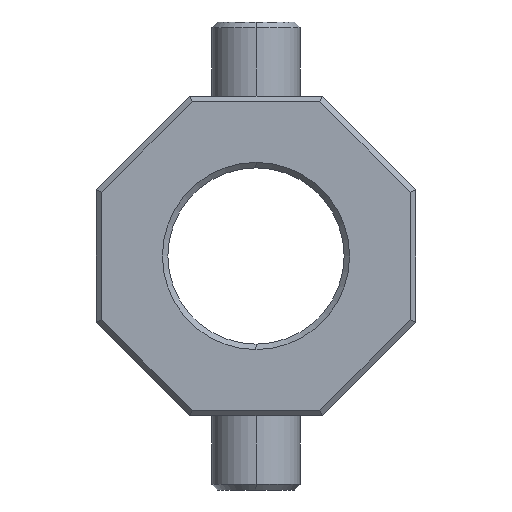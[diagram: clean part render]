
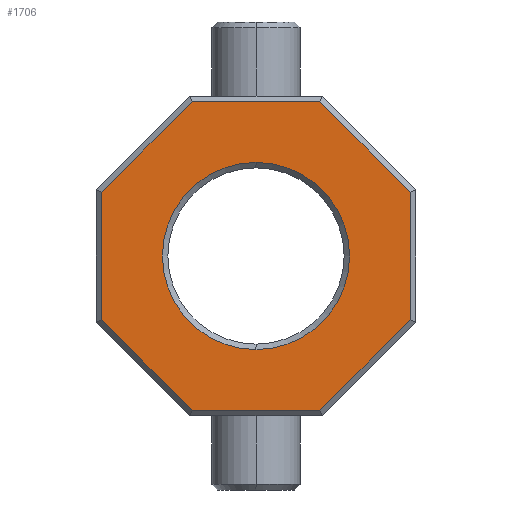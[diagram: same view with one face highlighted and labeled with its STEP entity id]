
A CAD part, left-side view. The second image highlights one B-rep face of the part: STEP entity #1706.
In plain terms, the highlighted planar face has unit normal (-1, 0, 0).
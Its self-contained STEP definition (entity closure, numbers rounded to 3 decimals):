
#5 = DIRECTION ( 'NONE',  ( 0., 0., 1. ) ) ;
#11 = CARTESIAN_POINT ( 'NONE',  ( -12.5, 0., 0. ) ) ;
#33 = CARTESIAN_POINT ( 'NONE',  ( -12.5, 0., 17. ) ) ;
#38 = CARTESIAN_POINT ( 'NONE',  ( -12.5, -28.293, -11.305 ) ) ;
#78 = CIRCLE ( 'NONE', #1937, 17. ) ;
#96 = DIRECTION ( 'NONE',  ( 1., 0., 0. ) ) ;
#102 = ORIENTED_EDGE ( 'NONE', *, *, #629, .T. ) ;
#177 = CARTESIAN_POINT ( 'NONE',  ( -12.5, 28., -12.012 ) ) ;
#219 = CARTESIAN_POINT ( 'NONE',  ( -12.5, 28., -11.598 ) ) ;
#249 = CARTESIAN_POINT ( 'NONE',  ( -12.5, 0., 0. ) ) ;
#275 = VECTOR ( 'NONE', #795, 1000. ) ;
#286 = CIRCLE ( 'NONE', #1747, 17. ) ;
#287 = EDGE_CURVE ( 'NONE', #1197, #1466, #1782, .T. ) ;
#342 = DIRECTION ( 'NONE',  ( 0., 0., -1. ) ) ;
#372 = VECTOR ( 'NONE', #5, 1000. ) ;
#388 = ORIENTED_EDGE ( 'NONE', *, *, #1232, .T. ) ;
#392 = VERTEX_POINT ( 'NONE', #1183 ) ;
#448 = VERTEX_POINT ( 'NONE', #1221 ) ;
#475 = EDGE_CURVE ( 'NONE', #1842, #448, #78, .T. ) ;
#512 = CARTESIAN_POINT ( 'NONE',  ( -12.5, -11.305, 28.293 ) ) ;
#565 = DIRECTION ( 'NONE',  ( 1., 0., 0. ) ) ;
#618 = EDGE_LOOP ( 'NONE', ( #708, #388, #738, #2023, #102, #1692, #919, #1761 ) ) ;
#629 = EDGE_CURVE ( 'NONE', #1787, #1197, #630, .T. ) ;
#630 = LINE ( 'NONE', #1107, #372 ) ;
#639 = CARTESIAN_POINT ( 'NONE',  ( -12.5, 11.598, -28. ) ) ;
#655 = VECTOR ( 'NONE', #675, 1000. ) ;
#662 = CARTESIAN_POINT ( 'NONE',  ( -12.5, -28., 11.598 ) ) ;
#675 = DIRECTION ( 'NONE',  ( 0., -0.707, 0.707 ) ) ;
#694 = PLANE ( 'NONE',  #1518 ) ;
#708 = ORIENTED_EDGE ( 'NONE', *, *, #897, .T. ) ;
#738 = ORIENTED_EDGE ( 'NONE', *, *, #1058, .T. ) ;
#769 = CARTESIAN_POINT ( 'NONE',  ( -12.5, -11.598, 28. ) ) ;
#795 = DIRECTION ( 'NONE',  ( 0., -1., 0. ) ) ;
#815 = CARTESIAN_POINT ( 'NONE',  ( -12.5, -28., -11.598 ) ) ;
#825 = FACE_BOUND ( 'NONE', #1115, .T. ) ;
#842 = VECTOR ( 'NONE', #1050, 1000. ) ;
#845 = DIRECTION ( 'NONE',  ( 1., 0., 0. ) ) ;
#852 = EDGE_CURVE ( 'NONE', #1466, #392, #1615, .T. ) ;
#897 = EDGE_CURVE ( 'NONE', #2002, #1275, #1605, .T. ) ;
#901 = VERTEX_POINT ( 'NONE', #1006 ) ;
#919 = ORIENTED_EDGE ( 'NONE', *, *, #852, .T. ) ;
#942 = EDGE_CURVE ( 'NONE', #392, #2002, #1678, .T. ) ;
#963 = LINE ( 'NONE', #1908, #1960 ) ;
#1006 = CARTESIAN_POINT ( 'NONE',  ( -12.5, -11.598, -28. ) ) ;
#1050 = DIRECTION ( 'NONE',  ( 0., 0.707, -0.707 ) ) ;
#1058 = EDGE_CURVE ( 'NONE', #1968, #901, #1390, .T. ) ;
#1107 = CARTESIAN_POINT ( 'NONE',  ( -12.5, -28., 12.012 ) ) ;
#1115 = EDGE_LOOP ( 'NONE', ( #1170, #1348 ) ) ;
#1134 = FACE_OUTER_BOUND ( 'NONE', #618, .T. ) ;
#1138 = VECTOR ( 'NONE', #1166, 1000. ) ;
#1166 = DIRECTION ( 'NONE',  ( 0., 0., -1. ) ) ;
#1170 = ORIENTED_EDGE ( 'NONE', *, *, #475, .T. ) ;
#1183 = CARTESIAN_POINT ( 'NONE',  ( -12.5, 11.598, 28. ) ) ;
#1197 = VERTEX_POINT ( 'NONE', #662 ) ;
#1221 = CARTESIAN_POINT ( 'NONE',  ( -12.5, 0., -17. ) ) ;
#1232 = EDGE_CURVE ( 'NONE', #1275, #1968, #963, .T. ) ;
#1275 = VERTEX_POINT ( 'NONE', #219 ) ;
#1279 = LINE ( 'NONE', #38, #655 ) ;
#1290 = DIRECTION ( 'NONE',  ( 0., 1., 0. ) ) ;
#1328 = DIRECTION ( 'NONE',  ( 0., 0.707, 0.707 ) ) ;
#1348 = ORIENTED_EDGE ( 'NONE', *, *, #2057, .T. ) ;
#1390 = LINE ( 'NONE', #1895, #275 ) ;
#1431 = DIRECTION ( 'NONE',  ( 0., -0.707, -0.707 ) ) ;
#1466 = VERTEX_POINT ( 'NONE', #769 ) ;
#1506 = DIRECTION ( 'NONE',  ( 0., 0., -1. ) ) ;
#1518 = AXIS2_PLACEMENT_3D ( 'NONE', #11, #845, #342 ) ;
#1532 = VECTOR ( 'NONE', #1290, 1000. ) ;
#1587 = CARTESIAN_POINT ( 'NONE',  ( -12.5, 12.012, 28. ) ) ;
#1605 = LINE ( 'NONE', #177, #1138 ) ;
#1615 = LINE ( 'NONE', #1587, #1532 ) ;
#1677 = DIRECTION ( 'NONE',  ( 0., 0., -1. ) ) ;
#1678 = LINE ( 'NONE', #1812, #842 ) ;
#1692 = ORIENTED_EDGE ( 'NONE', *, *, #287, .T. ) ;
#1706 = ADVANCED_FACE ( 'NONE', ( #1134, #825 ), #694, .F. ) ;
#1747 = AXIS2_PLACEMENT_3D ( 'NONE', #1811, #565, #1677 ) ;
#1761 = ORIENTED_EDGE ( 'NONE', *, *, #942, .T. ) ;
#1782 = LINE ( 'NONE', #512, #1810 ) ;
#1787 = VERTEX_POINT ( 'NONE', #815 ) ;
#1810 = VECTOR ( 'NONE', #1328, 1000. ) ;
#1811 = CARTESIAN_POINT ( 'NONE',  ( -12.5, 0., 0. ) ) ;
#1812 = CARTESIAN_POINT ( 'NONE',  ( -12.5, 28.293, 11.305 ) ) ;
#1842 = VERTEX_POINT ( 'NONE', #33 ) ;
#1895 = CARTESIAN_POINT ( 'NONE',  ( -12.5, -12.012, -28. ) ) ;
#1908 = CARTESIAN_POINT ( 'NONE',  ( -12.5, 11.305, -28.293 ) ) ;
#1934 = CARTESIAN_POINT ( 'NONE',  ( -12.5, 28., 11.598 ) ) ;
#1937 = AXIS2_PLACEMENT_3D ( 'NONE', #249, #96, #1506 ) ;
#1960 = VECTOR ( 'NONE', #1431, 1000. ) ;
#1968 = VERTEX_POINT ( 'NONE', #639 ) ;
#2002 = VERTEX_POINT ( 'NONE', #1934 ) ;
#2017 = EDGE_CURVE ( 'NONE', #901, #1787, #1279, .T. ) ;
#2023 = ORIENTED_EDGE ( 'NONE', *, *, #2017, .T. ) ;
#2057 = EDGE_CURVE ( 'NONE', #448, #1842, #286, .T. ) ;
